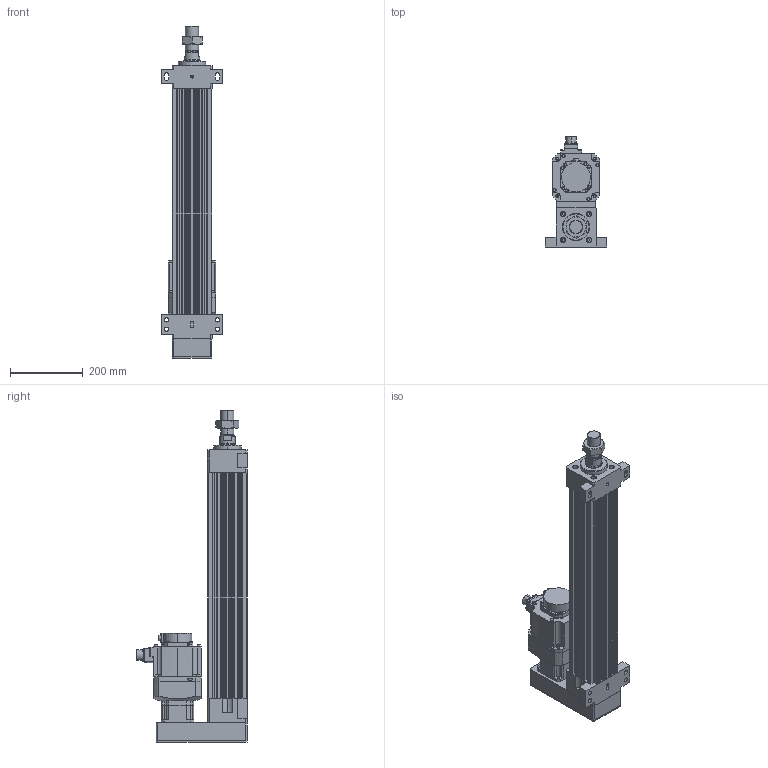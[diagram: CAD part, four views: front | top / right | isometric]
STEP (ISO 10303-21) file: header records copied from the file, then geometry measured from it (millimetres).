
FILE_DESCRIPTION (( 'STEP AP203' ), '1' );
FILE_NAME ('HES110NS(HS)-P450-W010G00-M-FFB.STEP', '2023-01-26T09:15:47', ( 'tms' ), ( '' ), 'SwSTEP 2.0', 'SolidWorks 2013', '' );
FILE_SCHEMA (( 'CONFIG_CONTROL_DESIGN' ));
Length unit declared in the file: millimetre
Products named in the file (8): AB0901; P0401301004; HES110-P450-G090-FFB; AB090-003[HG-SR102B]; HES110 ROD M ST450; HG-SR102; M36X1.5P; HES110NS(HS)-P450-W010G00-M-FFB
Assembly tree (7 placements, depth 3):
  HES110NS(HS)-P450-W010G00-M-FFB
    HES110-P450-G090-FFB
    HES110 ROD M ST450
    HG-SR102
    AB090-003[HG-SR102B]
      AB0901
      P0401301004
    M36X1.5P
Bounding box: 170 x 304.99 x 913 mm (x, y, z)
Volume: 8402885.5 mm3; surface area: 1082575.4 mm2
Topology: 4 solids, 11 shells, 1083 faces, 2775 edges, 1806 vertices
Faces by surface type: cylinder 501, plane 500, cone 70, bspline 8, torus 4
Entity records: 34904 total; most frequent: CARTESIAN_POINT 6854, DIRECTION 5982, ORIENTED_EDGE 5502, EDGE_CURVE 2761, AXIS2_PLACEMENT_3D 2205, VERTEX_POINT 1806, VECTOR 1572, LINE 1572
